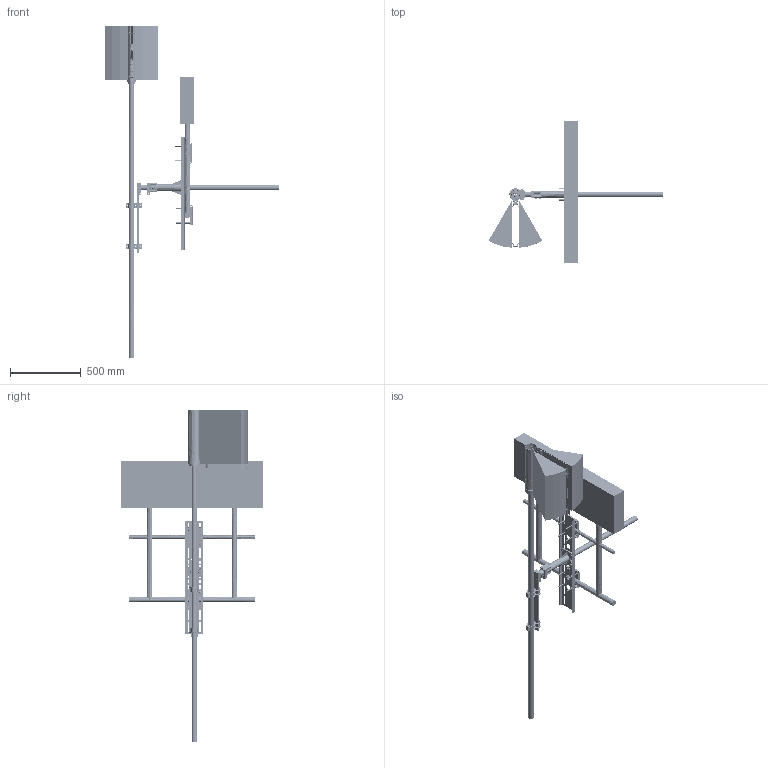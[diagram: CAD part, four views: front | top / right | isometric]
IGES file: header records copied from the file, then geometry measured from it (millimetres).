
Start section: SolidWorks IGES file using analytic representation for surfaces
Global section: file name: C:\Users\aloerke\Desktop\Arbeits-Ordner\Andreas\TD´s\LZX414_TD_62050_001.IGS; native system: SolidWorks 2023; preprocessor: SolidWorks 2023; author: aloerke; date: 240611.102549; units: millimetre
Bounding box: 1237.75 x 1000 x 2353 mm (x, y, z)
Surface area: 4656677.5 mm2 (no closed solid volume)
Topology: 0 solids, 0 shells, 8197 faces, 84618 edges, 83971 vertices
Faces by surface type: bspline 4198, revolution 3999
